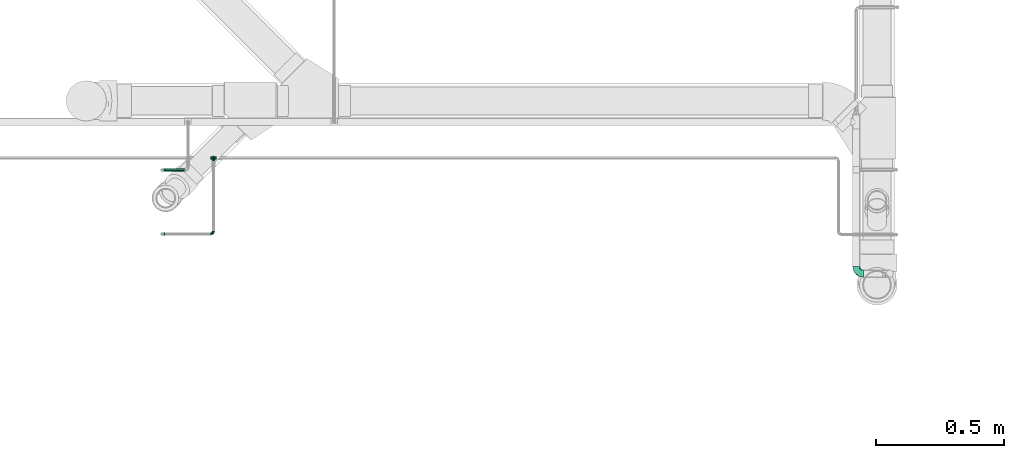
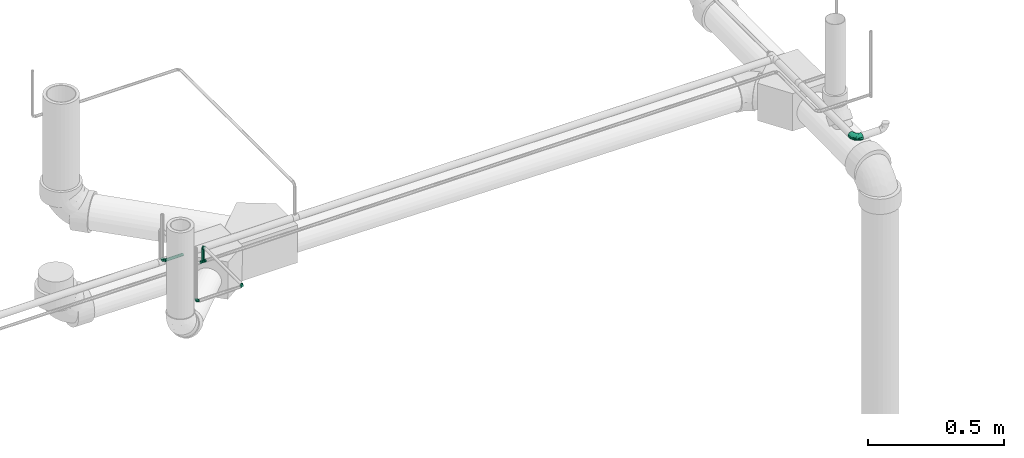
# One storey, part 73 of 108: 6 flow fittings, 2 flow segments.
"""IFC2X3 building model written with IfcOpenShell, lengths in millimetres."""

from ifc_helpers import new_model, entity, si_unit, converted_unit, derived_unit, direction, frame, origin_with_axes, origin_2d_with_axis, place, context, subcontext, project, spatial, hollow_circle, extrude, open_shell, surface_model, source, transform, mapped, type_object, element, save


model = new_model("IFC2X3")

# Units and contexts
model_context = context("Model", 3, precision=0.01, world=frame((0.0, 4.29681676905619e-09, 0.0)), true_north=direction((4.01073788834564e-13, 1.0)))
plan_context = context("Plan", 3, precision=0.01, world=frame((0.0, 4.29681676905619e-09, 0.0)), true_north=direction((4.01073788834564e-13, 1.0)))
body_context = subcontext(model_context, "Body", "Model", "MODEL_VIEW")
ifc_project = project(units=[converted_unit("PLANEANGLEUNIT", "DEGREE", entity("IfcPositiveLengthMeasure", 0.0174532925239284), si_unit("PLANEANGLEUNIT", "RADIAN"), dimensions=[0, 0, 0, 0, 0, 0, 0]), si_unit("AREAUNIT", "SQUARE_METRE"), si_unit("LENGTHUNIT", "METRE", prefix="MILLI"), si_unit("MASSUNIT", "GRAM", prefix="KILO"), si_unit("POWERUNIT", "WATT"), si_unit("PRESSUREUNIT", "PASCAL", prefix="KILO"), si_unit("FORCEUNIT", "NEWTON", prefix="KILO"), si_unit("ELECTRICVOLTAGEUNIT", "VOLT"), si_unit("ELECTRICCURRENTUNIT", "AMPERE"), si_unit("THERMODYNAMICTEMPERATUREUNIT", "DEGREE_CELSIUS"), si_unit("TIMEUNIT", "SECOND"), si_unit("VOLUMEUNIT", "CUBIC_METRE"), derived_unit("LINEARVELOCITYUNIT", [(si_unit("LENGTHUNIT", "METRE"), 1), (si_unit("TIMEUNIT", "SECOND"), -1)]), derived_unit("VOLUMETRICFLOWRATEUNIT", [(si_unit("VOLUMEUNIT", "CUBIC_METRE"), 1), (si_unit("TIMEUNIT", "SECOND"), -1)]), derived_unit("THERMALTRANSMITTANCEUNIT", [(si_unit("POWERUNIT", "WATT"), 1), (si_unit("THERMODYNAMICTEMPERATUREUNIT", "KELVIN"), -1), (si_unit("AREAUNIT", "SQUARE_METRE"), -1)]), derived_unit("SOUNDPRESSUREUNIT", [(si_unit("PRESSUREUNIT", "PASCAL"), 1)])], contexts=[model_context, plan_context])

# Site, building, storey
site_placement = place(None, frame((0.0, -4.29681676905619e-09, 0.0), z_axis=(0.0, 0.0, 1.0), x_axis=(1.0, 0.0, 0.0)))
site = spatial("IfcSite", under=ifc_project, at=site_placement, CompositionType="ELEMENT")
building_placement = place(site_placement, frame((0.0, 4.29681676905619e-09, 0.0), z_axis=(0.0, 0.0, 1.0), x_axis=(1.0, 0.0, 0.0)))
building = spatial("IfcBuilding", under=site, at=building_placement, Name="mc-building", CompositionType="ELEMENT")
storey_placement = place(building_placement, frame((0.0, 0.0, 210200.0), z_axis=(0.0, 0.0, 1.0), x_axis=(1.0, 0.0, 0.0)))
storey = spatial("IfcBuildingStorey", under=building, at=storey_placement, Name="Nivå F - 0,7 m", CompositionType="ELEMENT", Elevation=210200.0)

# Flow fittings
pipe_fitting_type_1 = type_object("IfcPipeFittingType", Name="magi_pipe_elbow_short_001", PredefinedType="BEND")
shared_shape_1 = source(origin_with_axes(), body_context, "Body", "SurfaceModel", [
    surface_model("IfcShellBasedSurfaceModel", [(-12.0, 0.0, -6.0), (-12.0, -5.19615, -3.0), (-12.0, 1.55291, -5.79555), (-12.0, 5.79555, -1.55291), (-12.0, -5.79555, -1.55291), (-12.0, -6.0, 0.0), (-12.0, -1.55291, 5.79555), (-12.0, 0.0, 6.0), (-12.0, -3.0, 5.19615), (-12.0, 3.0, -5.19615), (-12.0, 5.19615, -3.0), (-12.0, 4.24264, -4.24264), (-12.0, -3.0, -5.19615), (-12.0, -4.24264, -4.24264), (-12.0, -1.55291, -5.79555), (-12.0, 6.0, 0.0), (-12.0, -4.24264, 4.24264), (-12.0, 5.79555, 1.55291), (-12.0, 5.19615, 3.0), (-12.0, 4.24264, 4.24264), (-12.0, 1.55291, 5.79555), (-12.0, 3.0, 5.19615), (-12.0, -5.79555, 1.55291), (-12.0, -5.19615, 3.0), (-1.55291, 12.0, -5.79555), (5.19615, 12.0, -3.0), (0.0, 12.0, -6.0), (-5.79555, 12.0, -1.55291), (-3.0, 12.0, -5.19615), (-4.24264, 12.0, -4.24264), (-5.19615, 12.0, -3.0), (-1.55291, 12.0, 5.79555), (1.55291, 12.0, -5.79555), (4.24264, 12.0, -4.24264), (3.0, 12.0, -5.19615), (6.0, 12.0, 0.0), (5.79555, 12.0, -1.55291), (4.24264, 12.0, 4.24264), (-5.19615, 12.0, 3.0), (-5.79555, 12.0, 1.55291), (-4.24264, 12.0, 4.24264), (-3.0, 12.0, 5.19615), (5.19615, 12.0, 3.0), (5.79555, 12.0, 1.55291), (3.0, 12.0, 5.19615), (0.0, 12.0, 6.0), (1.55291, 12.0, 5.79555), (-6.0, 12.0, 0.0), (-2.67965, 2.67964, 5.88263), (-6.5981, -3.76246, 0.0), (0.72792, -0.72792, 0.0), (3.76246, 6.5981, 0.0), (-7.75736, 7.75736, 0.0), (-2.67964, 2.67964, -5.88263)], [open_shell([[[0, 1, 2]], [[3, 2, 1]], [[4, 5, 1]], [[6, 7, 8]], [[9, 2, 3]], [[3, 10, 11]], [[9, 3, 11]], [[12, 13, 14]], [[1, 14, 13]], [[0, 14, 1]], [[1, 5, 3]], [[5, 15, 3]], [[16, 17, 5]], [[18, 17, 19]], [[20, 21, 19]], [[17, 20, 19]], [[20, 17, 8]], [[5, 22, 23]], [[5, 23, 16]], [[17, 16, 8]], [[20, 8, 7]], [[17, 15, 5]], [[24, 25, 26]], [[27, 24, 28]], [[29, 30, 27]], [[29, 27, 28]], [[31, 25, 24]], [[32, 33, 34]], [[33, 32, 25]], [[25, 35, 36]], [[25, 32, 26]], [[25, 37, 35]], [[38, 24, 27]], [[27, 39, 38]], [[24, 38, 31]], [[40, 41, 31]], [[40, 31, 38]], [[37, 25, 31]], [[35, 42, 43]], [[37, 42, 35]], [[44, 45, 46]], [[44, 37, 31]], [[45, 44, 31]], [[27, 47, 39]], [[6, 48, 7]], [[23, 22, 49]], [[16, 23, 49]], [[22, 5, 49]], [[50, 51, 48]], [[8, 49, 48]], [[20, 7, 48]], [[8, 48, 6]], [[42, 51, 43]], [[16, 49, 8]], [[18, 19, 38]], [[48, 19, 21]], [[17, 18, 52]], [[52, 15, 17]], [[52, 18, 38]], [[21, 20, 48]], [[49, 50, 48]], [[44, 46, 48]], [[51, 44, 48]], [[46, 45, 48]], [[35, 43, 51]], [[44, 51, 37]], [[37, 51, 42]], [[38, 39, 52]], [[47, 52, 39]], [[41, 40, 48]], [[40, 19, 48]], [[38, 19, 40]], [[31, 41, 48]], [[45, 31, 48]], [[9, 53, 2]], [[2, 53, 0]], [[52, 10, 3]], [[50, 49, 53]], [[11, 29, 53]], [[1, 49, 4]], [[11, 10, 29]], [[9, 11, 53]], [[49, 5, 4]], [[1, 13, 49]], [[14, 53, 12]], [[49, 13, 12]], [[12, 53, 49]], [[0, 53, 14]], [[3, 15, 52]], [[52, 47, 27]], [[52, 27, 30]], [[29, 10, 30]], [[32, 53, 26]], [[53, 28, 24]], [[36, 35, 51]], [[53, 29, 28]], [[26, 53, 24]], [[53, 34, 51]], [[51, 34, 33]], [[25, 36, 51]], [[51, 50, 53]], [[51, 33, 25]], [[34, 53, 32]], [[30, 10, 52]]])]),
])
for number, where, z_axis, x_axis, name in (
    (1, (326324.00629, 463013.37423, 3355.0), (0.0, 0.0, 1.0), (1.0, 0.0, 0.0), "magi_pipe_elbow_short_001"),
    (2, (326324.00629, 463310.0, 3355.0), (1.0, 0.0, 0.0), (0.0, 0.0, 1.0), "magi_pipe_elbow_short_001"),
    (3, (326124.00629, 463013.37423, 3355.0), (0.0, 1.0, 0.0), (-1.0, 0.0, 0.0), "magi_pipe_elbow_short_001"),
    (4, (326124.00629, 463262.15197, 3385.0), (0.0, 1.0, 0.0), (-1.0, 0.0, 0.0), "magi_pipe_elbow_short_001"),
):
    element("IfcFlowFitting", number, at=place(storey_placement, frame(where, z_axis=z_axis, x_axis=x_axis)), inside=storey, type_object=pipe_fitting_type_1, Name=name, context=body_context, shape_type="MappedRepresentation", body=[
        mapped(shared_shape_1, transform((0.0, 0.0, 0.0), scale=1.0)),
    ])
shared_shape_2 = source(origin_with_axes(), body_context, "Body", "SurfaceModel", [
    surface_model("IfcShellBasedSurfaceModel", [(-28.0, 3.62347, -13.52296), (-28.0, 0.0, -14.0), (-28.0, 13.52296, -3.62347), (-28.0, 7.0, -12.12436), (-28.0, 9.89949, -9.89949), (-28.0, 12.12436, -7.0), (-28.0, -9.89949, 9.89949), (-28.0, -13.52296, -3.62347), (-28.0, -7.0, -12.12436), (-28.0, -9.89949, -9.89949), (-28.0, -3.62347, -13.52296), (-28.0, -12.12436, -7.0), (-28.0, -14.0, 0.0), (-28.0, -13.52296, 3.62347), (-28.0, 13.52296, 3.62347), (-28.0, 14.0, 0.0), (-28.0, 3.62347, 13.52296), (-28.0, 12.12436, 7.0), (-28.0, 9.89949, 9.89949), (-28.0, 7.0, 12.12436), (-28.0, 0.0, 14.0), (-28.0, -12.12436, 7.0), (-28.0, -3.62347, 13.52296), (-28.0, -7.0, 12.12436), (-13.52296, 28.0, -3.62347), (0.0, 28.0, -14.0), (-3.62347, 28.0, -13.52296), (-9.89949, 28.0, -9.89949), (-7.0, 28.0, -12.12436), (-12.12436, 28.0, -7.0), (13.52296, 28.0, -3.62347), (-9.89949, 28.0, 9.89949), (3.62347, 28.0, -13.52296), (9.89949, 28.0, -9.89949), (7.0, 28.0, -12.12436), (12.12436, 28.0, -7.0), (13.52296, 28.0, 3.62347), (14.0, 28.0, 0.0), (-13.52296, 28.0, 3.62347), (-12.12436, 28.0, 7.0), (-7.0, 28.0, 12.12436), (-3.62347, 28.0, 13.52296), (9.89949, 28.0, 9.89949), (0.0, 28.0, 14.0), (12.12436, 28.0, 7.0), (7.0, 28.0, 12.12436), (3.62347, 28.0, 13.52296), (-14.0, 28.0, 0.0), (-18.74729, -12.24672, 4.38175), (-20.4978, -10.87112, 7.8554), (-14.63098, -10.41778, 0.0), (-11.36869, -10.18884, 3.09687), (5.89274, 4.32805, 4.24468), (3.06694, 4.04075, 8.35629), (-0.17293, -0.734, 7.21134), (-12.21635, -8.85831, 7.04954), (-3.77138, -5.46958, 4.31404), (-21.31549, -12.20889, 0.0), (6.34939, 11.25924, 9.57712), (8.06481, 18.3168, 10.42711), (3.37486, 10.81192, 11.64293), (-18.31681, -8.06481, 10.42711), (-20.56266, -5.29223, 12.59496), (-21.38752, -1.85462, 13.76057), (-19.60454, 2.14601, 13.97614), (-10.81192, -3.37486, 11.64293), (-13.93831, -0.12564, 13.56955), (-21.5811, 5.49074, 13.225), (-21.95612, 11.65158, 9.17996), (-20.05772, 14.63261, 6.40071), (-24.5084, 13.14639, 5.80116), (-14.41344, 20.50581, 6.33709), (-4.86565, 13.76759, 13.97488), (-10.37, 10.37, 13.65983), (-8.33631, 6.11788, 13.92788), (-14.75744, 15.63504, 9.91683), (-24.22185, 8.47816, 11.40754), (-3.65439, 9.37683, 13.74657), (-6.95631, 2.56833, 13.07318), (-1.43023, 7.56381, 12.86583), (-23.31553, 14.32852, 3.52781), (-21.69779, 16.61046, 0.0), (-5.22595, 24.14907, 13.1135), (-1.91876, 20.94202, 13.96561), (5.29223, 20.56266, 12.59496), (-4.80832, -3.33944, 8.67628), (-2.5008, 2.5008, 11.44619), (1.85462, 21.38752, 13.76057), (10.87112, 20.4978, 7.8554), (8.85831, 12.21635, 7.04954), (12.24672, 18.74729, 4.38175), (-11.25924, -6.34939, 9.57712), (-15.37363, 21.10999, 3.25616), (-19.14983, 16.6358, 3.33834), (10.18884, 11.36869, 3.09687), (10.41778, 14.63098, 0.0), (12.20889, 21.31549, 0.0), (-18.10051, 18.10051, 0.0), (8.37307, 7.0, 0.0), (-11.50288, 18.59955, 10.71326), (-8.84699, 21.68272, 11.60426), (-11.55739, 22.32322, 9.13967), (-10.58943, 15.13428, 12.47628), (-6.05474, 18.97034, 13.33304), (-14.9522, 12.56273, 11.63436), (-7.0, -8.37307, 0.0), (-15.38425, 5.99686, 13.74946), (-13.73768, 3.4306, 13.99403), (-14.88363, 9.49937, 12.94918), (-8.15523, 14.5327, 13.41132), (0.12564, 13.93831, 13.56955), (-19.27864, 9.50344, 11.78944), (-1.06605, 0.88351, 9.56863), (-3.83005, -4.31684, 6.58349), (-3.15673, -4.5298, 0.0), (1.6378, -1.17307, 3.37596), (-16.61046, 21.69779, 0.0), (4.5298, 3.15673, 0.0), (0.68653, -0.68653, 0.0), (-22.16307, 1.77021, -13.95443), (-12.1112, 20.49304, -9.34219), (-20.84882, -12.5942, -4.60988), (-21.54235, 5.49691, -13.22664), (-19.10898, 16.60593, -3.53067), (-11.43732, -3.53319, -11.74569), (-12.15681, -0.17464, -13.31564), (-5.62502, -0.23427, -11.47155), (-20.32556, 9.17949, -11.70878), (-22.13531, 11.60457, -9.16028), (8.41708, 20.6911, -10.6019), (-16.88435, 12.82951, -10.55878), (-11.13704, -10.24959, -2.34743), (-4.84185, -6.54661, -3.36137), (-12.96604, 16.27159, -10.78023), (-9.97005, 17.11892, -12.15817), (-12.93887, 12.93887, -12.29249), (-1.2334, -2.64201, -5.92074), (1.22973, 2.47088, -8.8979), (5.16596, 4.11707, -5.50974), (-13.82252, 8.10203, -13.53774), (-19.77353, -10.77046, -7.78839), (-20.6911, -8.41708, -10.6019), (-5.71492, 20.3686, -13.27579), (12.5942, 20.84882, -4.60988), (-23.64458, -5.51923, -12.7416), (-12.09227, -8.27186, -7.82819), (-10.45313, -5.71095, -9.79365), (0.58937, 6.57638, -11.67536), (0.17464, 12.15681, -13.31564), (2.89353, 11.95196, -12.23037), (-23.72828, 14.45075, -2.39672), (-13.72718, 22.21732, -6.10198), (-14.65489, 22.72001, -3.11815), (10.77046, 19.77353, -7.78839), (-4.94234, 4.94234, -13.21976), (-17.01297, 16.64546, -6.86733), (-1.77021, 22.16307, -13.95443), (-8.78719, 21.97882, -11.58143), (1.76523, 20.62648, -13.74402), (5.51923, 23.64458, -12.7416), (-20.62648, -1.76523, -13.74402), (-17.72962, -4.83155, -12.45127), (-3.30956, 15.42318, -13.99698), (-7.57019, 8.16927, -13.99205), (-8.28388, 13.27199, -13.5833), (-6.87455, -6.54348, -6.32219), (9.88737, 10.40056, -2.49707), (6.89392, 5.1145, -2.73992), (0.30381, -2.5875, -3.00478), (-22.38273, 13.76108, -5.90633), (9.77824, 12.19087, -5.31295), (8.70689, 13.51955, -8.04189), (5.71095, 10.45313, -9.79365), (4.83155, 17.72962, -12.45127), (-4.06757, -2.72494, -8.72853), (6.23857, 7.82545, -7.6266), (-15.42318, 3.30956, -13.99698), (-16.05025, 23.05025, 0.0), (-12.19087, -9.77824, -5.31295), (3.79914, 1.24839, -3.50098), (-15.61294, 15.85577, -9.08381)], [open_shell([[[0, 1, 2]], [[3, 0, 4]], [[2, 5, 4]], [[0, 2, 4]], [[6, 1, 7]], [[8, 9, 10]], [[9, 1, 10]], [[11, 7, 9]], [[9, 7, 1]], [[12, 13, 7]], [[2, 1, 6]], [[14, 15, 16]], [[17, 14, 18]], [[16, 19, 18]], [[14, 16, 18]], [[20, 16, 15]], [[21, 6, 13]], [[6, 7, 13]], [[22, 20, 23]], [[6, 23, 20]], [[2, 6, 20]], [[15, 2, 20]], [[24, 25, 26]], [[27, 26, 28]], [[27, 29, 24]], [[27, 24, 26]], [[30, 25, 31]], [[32, 33, 34]], [[32, 25, 33]], [[33, 30, 35]], [[25, 30, 33]], [[30, 36, 37]], [[31, 25, 24]], [[24, 38, 31]], [[31, 38, 39]], [[31, 40, 41]], [[31, 42, 30]], [[41, 43, 31]], [[36, 42, 44]], [[30, 42, 36]], [[45, 43, 46]], [[43, 45, 42]], [[31, 43, 42]], [[24, 47, 38]], [[48, 49, 21]], [[48, 50, 51]], [[52, 53, 54]], [[55, 51, 56]], [[49, 6, 21]], [[57, 48, 13]], [[58, 59, 60]], [[61, 23, 6]], [[61, 62, 23]], [[20, 63, 64]], [[62, 65, 66]], [[59, 42, 45]], [[20, 22, 63]], [[67, 19, 16]], [[68, 69, 70]], [[39, 38, 71]], [[72, 73, 74]], [[69, 68, 75]], [[20, 64, 16]], [[19, 76, 18]], [[17, 18, 68]], [[77, 78, 79]], [[80, 81, 15]], [[41, 82, 83]], [[45, 84, 59]], [[85, 86, 65]], [[46, 43, 87]], [[88, 89, 90]], [[91, 65, 61]], [[43, 41, 83]], [[71, 92, 93]], [[90, 94, 95]], [[84, 45, 46]], [[88, 90, 44]], [[59, 84, 60]], [[36, 44, 90]], [[75, 71, 69]], [[23, 62, 22]], [[90, 96, 36]], [[97, 81, 93]], [[94, 98, 95]], [[92, 97, 93]], [[50, 48, 57]], [[70, 14, 17]], [[99, 100, 101]], [[31, 101, 100]], [[40, 31, 100]], [[102, 103, 100]], [[103, 72, 83]], [[82, 100, 103]], [[82, 41, 40]], [[99, 104, 102]], [[15, 14, 80]], [[67, 16, 64]], [[51, 50, 105]], [[48, 21, 13]], [[49, 55, 61]], [[44, 42, 88]], [[89, 52, 94]], [[106, 107, 74]], [[108, 67, 106]], [[31, 39, 101]], [[109, 102, 73]], [[103, 109, 72]], [[87, 83, 110]], [[76, 68, 18]], [[68, 111, 104]], [[65, 62, 61]], [[63, 62, 66]], [[91, 61, 55]], [[65, 86, 78]], [[87, 84, 46]], [[110, 79, 60]], [[110, 60, 84]], [[86, 112, 60]], [[55, 49, 48]], [[61, 6, 49]], [[42, 59, 88]], [[89, 88, 59]], [[106, 67, 64]], [[76, 67, 111]], [[53, 52, 89]], [[112, 86, 85]], [[56, 113, 55]], [[112, 54, 53]], [[58, 89, 59]], [[56, 51, 105]], [[114, 115, 56]], [[14, 70, 80]], [[69, 71, 93]], [[47, 116, 92]], [[92, 116, 97]], [[39, 71, 101]], [[75, 101, 71]], [[99, 102, 100]], [[108, 104, 111]], [[106, 74, 73]], [[110, 83, 72]], [[78, 74, 66]], [[72, 74, 77]], [[83, 87, 43]], [[84, 87, 110]], [[62, 63, 22]], [[64, 63, 66]], [[13, 12, 57]], [[96, 90, 95]], [[96, 37, 36]], [[115, 117, 52]], [[56, 105, 114]], [[55, 48, 51]], [[89, 94, 90]], [[52, 98, 94]], [[106, 64, 107]], [[108, 106, 73]], [[102, 108, 73]], [[67, 108, 111]], [[102, 104, 108]], [[68, 104, 75]], [[64, 66, 107]], [[66, 74, 107]], [[65, 78, 66]], [[79, 78, 86]], [[60, 79, 86]], [[77, 79, 110]], [[72, 77, 110]], [[78, 77, 74]], [[67, 76, 19]], [[68, 76, 111]], [[100, 82, 40]], [[83, 82, 103]], [[68, 70, 17]], [[80, 69, 93]], [[69, 80, 70]], [[80, 93, 81]], [[55, 85, 91]], [[85, 65, 91]], [[60, 53, 58]], [[53, 89, 58]], [[54, 112, 85]], [[60, 112, 53]], [[85, 113, 54]], [[113, 115, 54]], [[55, 113, 85]], [[115, 113, 56]], [[71, 38, 92]], [[115, 114, 118]], [[47, 92, 38]], [[101, 75, 99]], [[99, 75, 104]], [[72, 109, 73]], [[103, 102, 109]], [[54, 115, 52]], [[117, 115, 118]], [[117, 98, 52]], [[0, 119, 1]], [[29, 27, 120]], [[121, 57, 7]], [[3, 122, 0]], [[97, 123, 81]], [[124, 125, 126]], [[127, 4, 128]], [[33, 129, 34]], [[127, 128, 130]], [[131, 132, 105]], [[133, 134, 135]], [[127, 3, 4]], [[136, 137, 138]], [[139, 122, 127]], [[4, 5, 128]], [[11, 140, 121]], [[141, 140, 9]], [[26, 142, 28]], [[95, 143, 96]], [[144, 8, 10]], [[145, 141, 146]], [[30, 37, 96]], [[147, 148, 149]], [[140, 11, 9]], [[15, 81, 150]], [[130, 133, 135]], [[151, 152, 24]], [[153, 35, 143]], [[147, 154, 148]], [[24, 29, 151]], [[120, 155, 151]], [[33, 153, 129]], [[25, 156, 26]], [[26, 156, 142]], [[143, 35, 30]], [[27, 28, 157]], [[123, 152, 155]], [[158, 32, 159]], [[144, 160, 161]], [[122, 3, 127]], [[148, 162, 158]], [[157, 28, 142]], [[162, 163, 164]], [[159, 32, 34]], [[165, 136, 132]], [[35, 153, 33]], [[166, 98, 167]], [[160, 10, 1]], [[161, 160, 125]], [[95, 166, 143]], [[50, 131, 105]], [[121, 7, 11]], [[168, 114, 132]], [[150, 169, 2]], [[167, 98, 117]], [[32, 158, 25]], [[164, 142, 162]], [[133, 157, 134]], [[9, 8, 141]], [[165, 145, 146]], [[170, 171, 153]], [[129, 172, 173]], [[126, 137, 174]], [[175, 137, 172]], [[148, 158, 173]], [[156, 158, 162]], [[149, 172, 147]], [[148, 154, 163]], [[119, 160, 1]], [[176, 163, 125]], [[176, 125, 160]], [[125, 154, 126]], [[169, 128, 5]], [[127, 130, 135]], [[139, 127, 135]], [[119, 122, 176]], [[120, 151, 29]], [[152, 97, 177]], [[142, 164, 134]], [[120, 27, 157]], [[152, 47, 24]], [[81, 123, 150]], [[123, 155, 169]], [[152, 123, 97]], [[140, 178, 121]], [[121, 178, 131]], [[144, 141, 8]], [[146, 141, 161]], [[30, 96, 143]], [[170, 153, 143]], [[129, 153, 171]], [[159, 129, 173]], [[137, 147, 172]], [[126, 154, 147]], [[172, 171, 175]], [[174, 137, 136]], [[137, 126, 147]], [[126, 146, 124]], [[117, 118, 179]], [[179, 138, 167]], [[128, 169, 155]], [[5, 2, 169]], [[57, 121, 50]], [[57, 12, 7]], [[122, 119, 0]], [[160, 119, 176]], [[158, 156, 25]], [[142, 156, 162]], [[162, 148, 163]], [[139, 135, 164]], [[125, 163, 154]], [[139, 163, 176]], [[163, 139, 164]], [[122, 139, 176]], [[155, 180, 128]], [[180, 120, 133]], [[180, 133, 130]], [[157, 133, 120]], [[142, 134, 157]], [[164, 135, 134]], [[128, 180, 130]], [[120, 180, 155]], [[152, 151, 155]], [[47, 152, 177]], [[169, 150, 123]], [[15, 150, 2]], [[121, 131, 50]], [[178, 165, 132]], [[178, 132, 131]], [[168, 132, 136]], [[145, 165, 178]], [[174, 165, 146]], [[178, 140, 145]], [[141, 145, 140]], [[179, 136, 138]], [[170, 166, 167]], [[168, 179, 118]], [[170, 167, 138]], [[143, 166, 170]], [[95, 98, 166]], [[117, 179, 167]], [[136, 179, 168]], [[129, 159, 34]], [[158, 159, 173]], [[160, 144, 10]], [[141, 144, 161]], [[175, 170, 138]], [[129, 171, 172]], [[170, 175, 171]], [[137, 175, 138]], [[148, 173, 149]], [[172, 149, 173]], [[165, 174, 136]], [[126, 174, 146]], [[146, 161, 124]], [[125, 124, 161]], [[114, 168, 118]], [[114, 105, 132]]])]),
])
flow_fitting_1_placement = place(storey_placement, frame((328825.72018, 462858.67463, 3233.60000000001), z_axis=(0.0, 0.0, 1.0), x_axis=(0.0, -1.0, 0.0)))
element("IfcFlowFitting", 5, at=flow_fitting_1_placement, inside=storey, type_object=pipe_fitting_type_1, Name="magi_pipe_elbow_short_001", context=body_context, shape_type="MappedRepresentation", body=[
    mapped(shared_shape_2, transform((0.0, 0.0, 0.0), scale=1.0)),
])
pipe_fitting_type_2 = type_object("IfcPipeFittingType", Name="magi_pipe_tee_centric_90_001", PredefinedType="JUNCTION")
shared_shape_3 = source(origin_with_axes(), body_context, "Body", "SurfaceModel", [
    surface_model("IfcShellBasedSurfaceModel", [(-12.0, 0.0, -6.0), (-12.0, -5.19615, -3.0), (-12.0, 1.55291, -5.79555), (-12.0, 3.0, -5.19615), (-12.0, 4.24264, -4.24264), (-12.0, 5.79555, -1.55291), (-12.0, 5.19615, -3.0), (-12.0, -4.24264, -4.24264), (-12.0, -3.0, -5.19615), (-12.0, -1.55291, -5.79555), (-12.0, -5.79555, -1.55291), (-12.0, -6.0, 0.0), (-12.0, -5.19615, 3.0), (-12.0, 5.19615, 3.0), (-12.0, 5.79555, 1.55291), (-12.0, 6.0, 0.0), (-12.0, 3.0, 5.19615), (-12.0, 4.24264, 4.24264), (-12.0, 1.55291, 5.79555), (-12.0, 0.0, 6.0), (-12.0, -4.24264, 4.24264), (-12.0, -3.0, 5.19615), (-12.0, -5.79555, 1.55291), (-12.0, -1.55291, 5.79555), (12.0, 1.55291, -5.79555), (12.0, -5.19615, -3.0), (12.0, 0.0, -6.0), (12.0, 4.24264, -4.24264), (12.0, 3.0, -5.19615), (12.0, 5.19615, -3.0), (12.0, 5.79555, -1.55291), (12.0, 5.19615, 3.0), (12.0, -6.0, 0.0), (12.0, -3.0, -5.19615), (12.0, -4.24264, -4.24264), (12.0, -1.55291, -5.79555), (12.0, -5.79555, -1.55291), (12.0, 6.0, 0.0), (12.0, 5.79555, 1.55291), (12.0, -5.19615, 3.0), (12.0, 3.0, 5.19615), (12.0, 4.24264, 4.24264), (12.0, 0.0, 6.0), (12.0, 1.55291, 5.79555), (12.0, -3.0, 5.19615), (12.0, -4.24264, 4.24264), (12.0, -5.79555, 1.55291), (12.0, -1.55291, 5.79555), (6.0, -6.0, 0.0), (5.78236, -5.78236, 1.60135), (5.19303, -5.19303, 3.0054), (4.35388, -4.35388, 4.1284), (3.36289, -3.36289, 4.969), (-6.0, -6.0, 0.0), (-5.78236, -5.78236, 1.60135), (-5.19303, -5.19303, 3.0054), (-4.35388, -4.35388, 4.1284), (-3.36289, -3.36289, 4.969), (2.28247, -2.28247, 5.54891), (1.15215, -1.15215, 5.88834), (0.0, 0.0, 6.0), (-2.28247, -2.28247, 5.54891), (-1.15215, -1.15215, 5.88834), (0.0, 0.0, -6.0), (2.28247, -2.28247, -5.54891), (1.15215, -1.15215, -5.88834), (3.36289, -3.36289, -4.969), (-1.15215, -1.15215, -5.88834), (-2.28247, -2.28247, -5.54891), (-3.36289, -3.36289, -4.969), (4.35388, -4.35388, -4.1284), (5.19303, -5.19303, -3.0054), (5.78236, -5.78236, -1.60135), (-4.35388, -4.35388, -4.1284), (-5.19303, -5.19303, -3.0054), (-5.78236, -5.78236, -1.60135), (1.55291, -9.0, -5.79555), (-6.0, -9.0, 0.0), (0.0, -9.0, -6.0), (5.19615, -9.0, -3.0), (3.0, -9.0, -5.19615), (5.79555, -9.0, -1.55291), (4.24264, -9.0, -4.24264), (-4.24264, -9.0, 4.24264), (-3.0, -9.0, -5.19615), (-5.19615, -9.0, -3.0), (-4.24264, -9.0, -4.24264), (-1.55291, -9.0, -5.79555), (-5.79555, -9.0, -1.55291), (5.19615, -9.0, 3.0), (6.0, -9.0, 0.0), (5.79555, -9.0, 1.55291), (-3.0, -9.0, 5.19615), (3.0, -9.0, 5.19615), (4.24264, -9.0, 4.24264), (0.0, -9.0, 6.0), (1.55291, -9.0, 5.79555), (-5.79555, -9.0, 1.55291), (-5.19615, -9.0, 3.0), (-1.55291, -9.0, 5.79555)], [open_shell([[[0, 1, 2]], [[3, 2, 4]], [[2, 5, 6]], [[4, 2, 6]], [[5, 2, 1]], [[7, 1, 8]], [[0, 9, 8]], [[10, 11, 1]], [[1, 0, 8]], [[11, 12, 1]], [[12, 5, 1]], [[13, 14, 15]], [[5, 12, 13]], [[16, 13, 12]], [[17, 13, 16]], [[18, 16, 19]], [[20, 21, 12]], [[12, 11, 22]], [[23, 19, 21]], [[16, 12, 21]], [[16, 21, 19]], [[15, 5, 13]], [[24, 25, 26]], [[27, 24, 28]], [[29, 30, 24]], [[29, 24, 27]], [[31, 32, 24]], [[33, 25, 34]], [[33, 35, 26]], [[25, 32, 36]], [[33, 26, 25]], [[24, 32, 25]], [[24, 30, 37]], [[37, 38, 31]], [[31, 39, 32]], [[39, 31, 40]], [[40, 31, 41]], [[42, 40, 43]], [[39, 44, 45]], [[46, 32, 39]], [[44, 42, 47]], [[44, 39, 40]], [[42, 44, 40]], [[31, 24, 37]], [[32, 46, 48]], [[46, 49, 48]], [[49, 46, 39]], [[49, 39, 50]], [[45, 44, 51]], [[51, 50, 45]], [[52, 51, 44]], [[45, 50, 39]], [[53, 54, 22]], [[53, 22, 11]], [[22, 54, 12]], [[54, 55, 12]], [[56, 57, 21]], [[56, 20, 55]], [[20, 56, 21]], [[55, 20, 12]], [[21, 57, 23]], [[52, 44, 47]], [[42, 58, 52]], [[58, 43, 59]], [[43, 58, 42]], [[59, 43, 40]], [[42, 52, 47]], [[40, 41, 60]], [[60, 31, 38]], [[31, 60, 41]], [[40, 60, 59]], [[60, 38, 37]], [[18, 61, 62]], [[19, 23, 57]], [[18, 19, 61]], [[19, 57, 61]], [[62, 60, 16]], [[60, 14, 13]], [[13, 17, 60]], [[16, 18, 62]], [[60, 17, 16]], [[14, 60, 15]], [[60, 37, 15]], [[30, 63, 37]], [[27, 63, 29]], [[63, 30, 29]], [[63, 27, 28]], [[24, 26, 64]], [[24, 64, 65]], [[66, 64, 26]], [[66, 26, 35]], [[24, 65, 28]], [[63, 28, 65]], [[63, 3, 4]], [[5, 63, 6]], [[4, 6, 63]], [[63, 5, 15]], [[67, 2, 3]], [[2, 68, 0]], [[9, 0, 69]], [[67, 68, 2]], [[67, 3, 63]], [[15, 37, 63]], [[33, 34, 70]], [[70, 66, 33]], [[71, 70, 34]], [[34, 25, 71]], [[25, 36, 72]], [[36, 48, 72]], [[48, 36, 32]], [[25, 72, 71]], [[69, 8, 9]], [[8, 73, 7]], [[73, 8, 69]], [[7, 73, 74]], [[69, 0, 68]], [[75, 53, 10]], [[74, 75, 1]], [[75, 10, 1]], [[10, 53, 11]], [[74, 1, 7]], [[66, 35, 33]], [[76, 77, 78]], [[79, 76, 80]], [[79, 81, 76]], [[79, 80, 82]], [[83, 77, 76]], [[84, 85, 86]], [[85, 84, 87]], [[85, 77, 88]], [[85, 87, 78]], [[78, 77, 85]], [[76, 81, 89]], [[90, 91, 89]], [[89, 83, 76]], [[92, 89, 93]], [[93, 89, 94]], [[95, 93, 96]], [[97, 83, 98]], [[77, 83, 97]], [[92, 95, 99]], [[92, 83, 89]], [[95, 92, 93]], [[89, 81, 90]], [[97, 53, 77]], [[98, 54, 97]], [[55, 83, 92]], [[92, 99, 55]], [[98, 83, 54]], [[95, 56, 99]], [[54, 53, 97]], [[55, 54, 83]], [[51, 57, 56]], [[58, 62, 61]], [[61, 57, 52]], [[55, 99, 56]], [[95, 51, 56]], [[93, 50, 96]], [[94, 50, 93]], [[49, 89, 91]], [[90, 48, 91]], [[94, 89, 49]], [[49, 91, 48]], [[60, 62, 59]], [[59, 62, 58]], [[49, 50, 94]], [[52, 57, 51]], [[50, 51, 96]], [[61, 52, 58]], [[51, 95, 96]], [[81, 48, 90]], [[79, 72, 81]], [[71, 82, 80]], [[80, 76, 71]], [[79, 82, 72]], [[78, 70, 76]], [[72, 48, 81]], [[71, 72, 82]], [[73, 66, 70]], [[68, 65, 64]], [[64, 66, 69]], [[71, 76, 70]], [[78, 73, 70]], [[84, 74, 87]], [[86, 74, 84]], [[75, 85, 88]], [[77, 53, 88]], [[86, 85, 75]], [[75, 88, 53]], [[63, 65, 67]], [[67, 65, 68]], [[75, 74, 86]], [[69, 66, 73]], [[74, 73, 87]], [[64, 69, 68]], [[73, 78, 87]]])]),
])
flow_fitting_2_placement = place(storey_placement, frame((326324.00629, 463310.0, 3284.41390000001), z_axis=(0.0, -1.0, 0.0), x_axis=(-1.0, 0.0, 0.0)))
element("IfcFlowFitting", 6, at=flow_fitting_2_placement, inside=storey, type_object=pipe_fitting_type_2, Name="magi_pipe_tee_centric_90_001", context=body_context, shape_type="MappedRepresentation", body=[
    mapped(shared_shape_3, transform((0.0, 0.0, 0.0), scale=1.0)),
])

# Flow segments
pipe_segment_type = type_object("IfcPipeSegmentType", Name="Kobberrør", PredefinedType="RIGIDSEGMENT")
shared_shape_4 = source(origin_with_axes(), body_context, "Body", "SweptSolid", [
    extrude(hollow_circle(Radius=6.0, WallThickness=2.0, at=origin_2d_with_axis()), frame((0.0, 0.0, 0.0), z_axis=(1.0, 0.0, 0.0), x_axis=(0.0, 1.0, 0.0)), (0.0, 0.0, 1.0), 76.0),
])
flow_segment_1_placement = place(storey_placement, frame((326136.00629, 463262.15197, 3385.0), z_axis=(0.0, 0.0, 1.0), x_axis=(1.0, 0.0, 0.0)))
element("IfcFlowSegment", 7, at=flow_segment_1_placement, inside=storey, type_object=pipe_segment_type, Name="Kobberrør", context=body_context, shape_type="MappedRepresentation", body=[
    mapped(shared_shape_4, transform((0.0, 0.0, 0.0), scale=1.0)),
])
shared_shape_5 = source(origin_with_axes(), body_context, "Body", "SweptSolid", [
    extrude(hollow_circle(Radius=6.0, WallThickness=2.0, at=origin_2d_with_axis()), frame((0.0, 0.0, 0.0), z_axis=(1.0, 0.0, 0.0), x_axis=(0.0, 1.0, 0.0)), (0.0, 0.0, 1.0), 49.6),
])
flow_segment_2_placement = place(storey_placement, frame((326324.00629, 463310.0, 3293.41390000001), z_axis=(0.0, 1.0, 0.0), x_axis=(0.0, 0.0, 1.0)))
element("IfcFlowSegment", 8, at=flow_segment_2_placement, inside=storey, type_object=pipe_segment_type, Name="Kobberrør", context=body_context, shape_type="MappedRepresentation", body=[
    mapped(shared_shape_5, transform((0.0, 0.0, 0.0), scale=1.0)),
])

save(model, "model.ifc")
